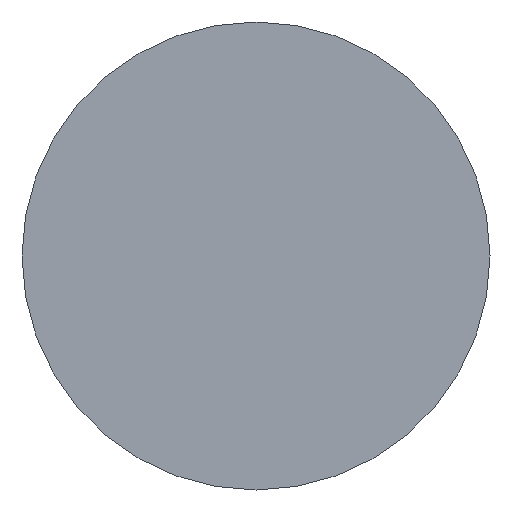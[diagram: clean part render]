
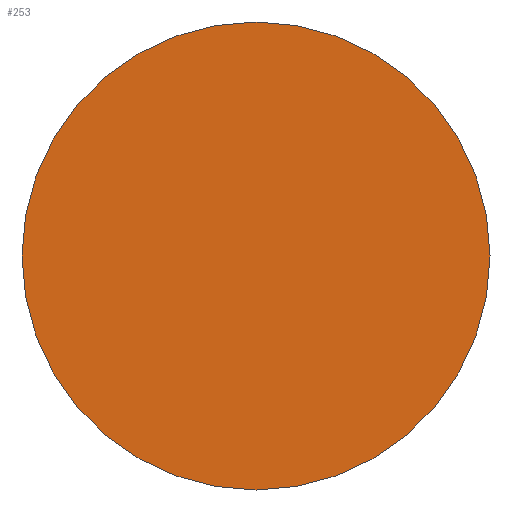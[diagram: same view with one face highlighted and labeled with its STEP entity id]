
A CAD part, left-side view. The second image highlights one B-rep face of the part: STEP entity #253.
In plain terms, the highlighted planar face has unit normal (-1, 0, 0).
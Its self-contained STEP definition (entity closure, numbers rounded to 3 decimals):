
#21 = CARTESIAN_POINT ( 'NONE',  ( 0., 0., 0. ) ) ;
#42 = CARTESIAN_POINT ( 'NONE',  ( 0., 3., 0. ) ) ;
#43 = EDGE_LOOP ( 'NONE', ( #160, #106 ) ) ;
#61 = PLANE ( 'NONE',  #92 ) ;
#73 = CARTESIAN_POINT ( 'NONE',  ( 0., 0., 0. ) ) ;
#81 = AXIS2_PLACEMENT_3D ( 'NONE', #21, #220, #125 ) ;
#82 = DIRECTION ( 'NONE',  ( -1., 0., 0. ) ) ;
#83 = EDGE_CURVE ( 'NONE', #233, #95, #137, .T. ) ;
#87 = DIRECTION ( 'NONE',  ( 0., 1., 0. ) ) ;
#92 = AXIS2_PLACEMENT_3D ( 'NONE', #73, #82, #100 ) ;
#95 = VERTEX_POINT ( 'NONE', #42 ) ;
#100 = DIRECTION ( 'NONE',  ( 0., -1., 0. ) ) ;
#106 = ORIENTED_EDGE ( 'NONE', *, *, #83, .F. ) ;
#117 = CARTESIAN_POINT ( 'NONE',  ( 0., 0., 0. ) ) ;
#125 = DIRECTION ( 'NONE',  ( 0., 1., 0. ) ) ;
#136 = AXIS2_PLACEMENT_3D ( 'NONE', #117, #231, #87 ) ;
#137 = CIRCLE ( 'NONE', #136, 3. ) ;
#160 = ORIENTED_EDGE ( 'NONE', *, *, #261, .F. ) ;
#190 = CARTESIAN_POINT ( 'NONE',  ( 0., -3., 0. ) ) ;
#220 = DIRECTION ( 'NONE',  ( 1., 0., 0. ) ) ;
#231 = DIRECTION ( 'NONE',  ( 1., 0., 0. ) ) ;
#233 = VERTEX_POINT ( 'NONE', #190 ) ;
#251 = CIRCLE ( 'NONE', #81, 3. ) ;
#253 = ADVANCED_FACE ( 'NONE', ( #260 ), #61, .T. ) ;
#260 = FACE_OUTER_BOUND ( 'NONE', #43, .T. ) ;
#261 = EDGE_CURVE ( 'NONE', #95, #233, #251, .T. ) ;
